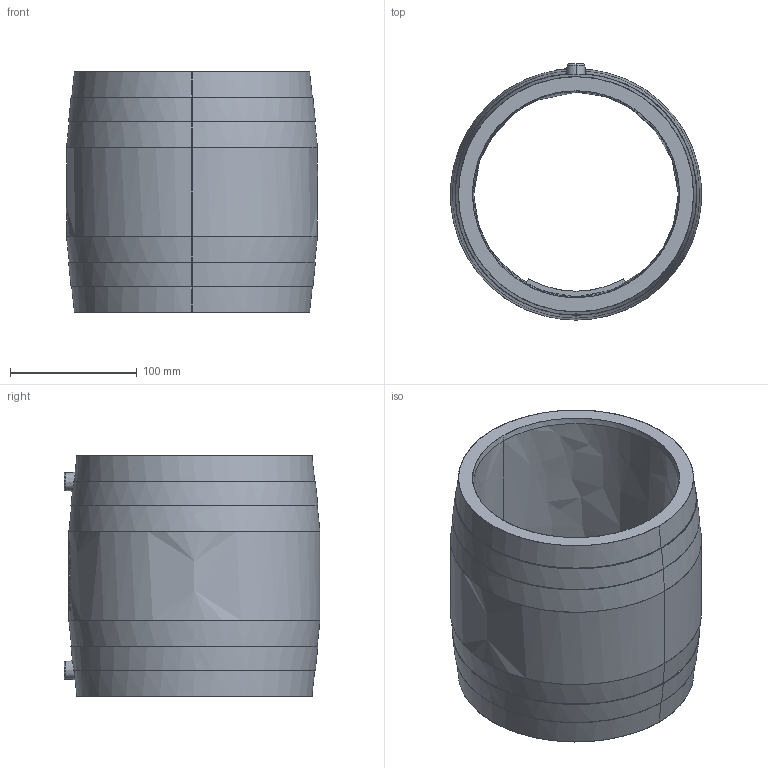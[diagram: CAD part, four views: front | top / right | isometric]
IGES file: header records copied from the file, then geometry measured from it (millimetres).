
Start section:  PTC IGES file: mb_d160_01.igs
Global section: file name: mb_d160_01.igs; native system: Pro/ENGINEER by Parametric Technology Corporation; preprocessor: 2011490; author: mtunjic; organization: Unknown; date: 20130805.164144; units: millimetre
Bounding box: 198.5 x 202.35 x 190 mm (x, y, z)
Surface area: 228419.2 mm2 (no closed solid volume)
Topology: 0 solids, 0 shells, 170 faces, 874 edges, 874 vertices
Faces by surface type: bspline 170
